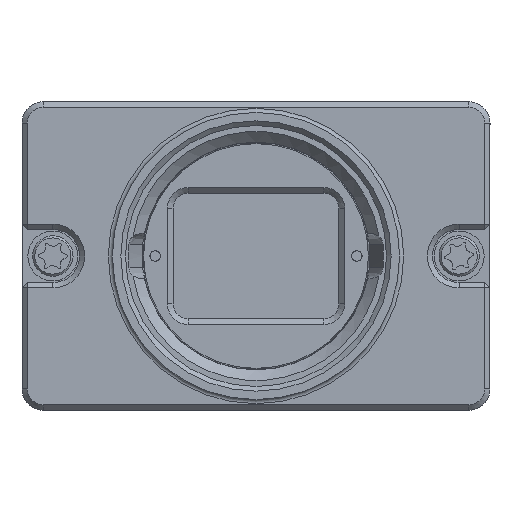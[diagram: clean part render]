
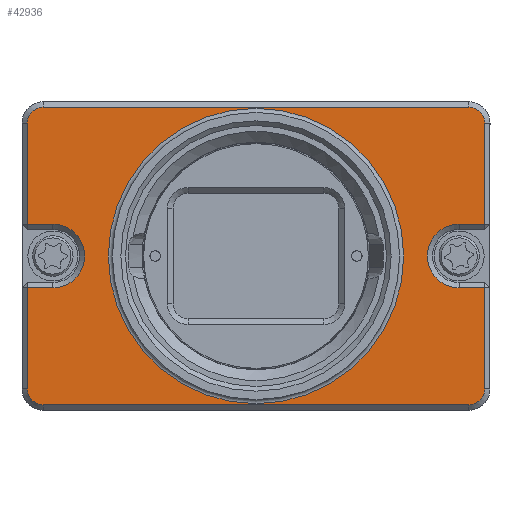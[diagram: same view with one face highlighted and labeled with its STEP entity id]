
A CAD part, front view. The second image highlights one B-rep face of the part: STEP entity #42936.
In plain terms, the highlighted planar face has unit normal (0, -1, 0).
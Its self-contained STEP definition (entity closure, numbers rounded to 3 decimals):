
#577=FACE_BOUND('',#5378,.T.);
#1563=PLANE('',#45368);
#3062=FACE_OUTER_BOUND('',#5377,.T.);
#5377=EDGE_LOOP('',(#28427,#28428,#28429,#28430,#28431,#28432,#28433,#28434,
#28435,#28436,#28437,#28438,#28439,#28440,#28441,#28442));
#5378=EDGE_LOOP('',(#28443,#28444));
#7934=LINE('',#59817,#12380);
#7935=LINE('',#59819,#12381);
#7936=LINE('',#59823,#12382);
#7937=LINE('',#59825,#12383);
#7938=LINE('',#59829,#12384);
#7939=LINE('',#59833,#12385);
#7940=LINE('',#59835,#12386);
#7941=LINE('',#59839,#12387);
#7942=LINE('',#59841,#12388);
#7943=LINE('',#59845,#12389);
#12380=VECTOR('',#48684,10.);
#12381=VECTOR('',#48685,10.);
#12382=VECTOR('',#48688,10.);
#12383=VECTOR('',#48689,10.);
#12384=VECTOR('',#48692,10.);
#12385=VECTOR('',#48695,10.);
#12386=VECTOR('',#48696,10.);
#12387=VECTOR('',#48699,10.);
#12388=VECTOR('',#48700,10.);
#12389=VECTOR('',#48703,10.);
#16824=CIRCLE('',#45365,13.88);
#16825=CIRCLE('',#45366,13.88);
#16827=CIRCLE('',#45369,3.);
#16828=CIRCLE('',#45370,1.5);
#16829=CIRCLE('',#45371,1.5);
#16830=CIRCLE('',#45372,3.);
#16831=CIRCLE('',#45373,1.5);
#16832=CIRCLE('',#45374,1.5);
#17861=VERTEX_POINT('',#59808);
#17862=VERTEX_POINT('',#59810);
#17863=VERTEX_POINT('',#59815);
#17864=VERTEX_POINT('',#59816);
#17865=VERTEX_POINT('',#59818);
#17866=VERTEX_POINT('',#59820);
#17867=VERTEX_POINT('',#59822);
#17868=VERTEX_POINT('',#59824);
#17869=VERTEX_POINT('',#59826);
#17870=VERTEX_POINT('',#59828);
#17871=VERTEX_POINT('',#59830);
#17872=VERTEX_POINT('',#59832);
#17873=VERTEX_POINT('',#59834);
#17874=VERTEX_POINT('',#59836);
#17875=VERTEX_POINT('',#59838);
#17876=VERTEX_POINT('',#59840);
#17877=VERTEX_POINT('',#59842);
#17878=VERTEX_POINT('',#59844);
#21989=EDGE_CURVE('',#17861,#17862,#16824,.T.);
#21990=EDGE_CURVE('',#17862,#17861,#16825,.T.);
#21992=EDGE_CURVE('',#17863,#17864,#7934,.T.);
#21993=EDGE_CURVE('',#17865,#17863,#7935,.T.);
#21994=EDGE_CURVE('',#17866,#17865,#16827,.T.);
#21995=EDGE_CURVE('',#17867,#17866,#7936,.T.);
#21996=EDGE_CURVE('',#17868,#17867,#7937,.T.);
#21997=EDGE_CURVE('',#17869,#17868,#16828,.T.);
#21998=EDGE_CURVE('',#17870,#17869,#7938,.T.);
#21999=EDGE_CURVE('',#17871,#17870,#16829,.T.);
#22000=EDGE_CURVE('',#17872,#17871,#7939,.T.);
#22001=EDGE_CURVE('',#17873,#17872,#7940,.T.);
#22002=EDGE_CURVE('',#17874,#17873,#16830,.T.);
#22003=EDGE_CURVE('',#17875,#17874,#7941,.T.);
#22004=EDGE_CURVE('',#17876,#17875,#7942,.T.);
#22005=EDGE_CURVE('',#17877,#17876,#16831,.T.);
#22006=EDGE_CURVE('',#17878,#17877,#7943,.T.);
#22007=EDGE_CURVE('',#17864,#17878,#16832,.T.);
#28427=ORIENTED_EDGE('',*,*,#21992,.F.);
#28428=ORIENTED_EDGE('',*,*,#21993,.F.);
#28429=ORIENTED_EDGE('',*,*,#21994,.F.);
#28430=ORIENTED_EDGE('',*,*,#21995,.F.);
#28431=ORIENTED_EDGE('',*,*,#21996,.F.);
#28432=ORIENTED_EDGE('',*,*,#21997,.F.);
#28433=ORIENTED_EDGE('',*,*,#21998,.F.);
#28434=ORIENTED_EDGE('',*,*,#21999,.F.);
#28435=ORIENTED_EDGE('',*,*,#22000,.F.);
#28436=ORIENTED_EDGE('',*,*,#22001,.F.);
#28437=ORIENTED_EDGE('',*,*,#22002,.F.);
#28438=ORIENTED_EDGE('',*,*,#22003,.F.);
#28439=ORIENTED_EDGE('',*,*,#22004,.F.);
#28440=ORIENTED_EDGE('',*,*,#22005,.F.);
#28441=ORIENTED_EDGE('',*,*,#22006,.F.);
#28442=ORIENTED_EDGE('',*,*,#22007,.F.);
#28443=ORIENTED_EDGE('',*,*,#21990,.F.);
#28444=ORIENTED_EDGE('',*,*,#21989,.F.);
#42936=ADVANCED_FACE('',(#3062,#577),#1563,.T.);
#45365=AXIS2_PLACEMENT_3D('',#59811,#48676,#48677);
#45366=AXIS2_PLACEMENT_3D('',#59812,#48678,#48679);
#45368=AXIS2_PLACEMENT_3D('',#59814,#48682,#48683);
#45369=AXIS2_PLACEMENT_3D('',#59821,#48686,#48687);
#45370=AXIS2_PLACEMENT_3D('',#59827,#48690,#48691);
#45371=AXIS2_PLACEMENT_3D('',#59831,#48693,#48694);
#45372=AXIS2_PLACEMENT_3D('',#59837,#48697,#48698);
#45373=AXIS2_PLACEMENT_3D('',#59843,#48701,#48702);
#45374=AXIS2_PLACEMENT_3D('',#59846,#48704,#48705);
#48676=DIRECTION('center_axis',(0.,-1.,0.));
#48677=DIRECTION('ref_axis',(1.,0.,0.));
#48678=DIRECTION('center_axis',(0.,-1.,0.));
#48679=DIRECTION('ref_axis',(1.,0.,0.));
#48682=DIRECTION('center_axis',(0.,-1.,0.));
#48683=DIRECTION('ref_axis',(-1.,0.,0.));
#48684=DIRECTION('',(0.,0.,1.));
#48685=DIRECTION('',(-1.,0.,0.));
#48686=DIRECTION('center_axis',(0.,-1.,0.));
#48687=DIRECTION('ref_axis',(1.,0.,0.));
#48688=DIRECTION('',(1.,0.,0.));
#48689=DIRECTION('',(0.,0.,1.));
#48690=DIRECTION('center_axis',(0.,1.,0.));
#48691=DIRECTION('ref_axis',(-0.707,0.,-0.707));
#48692=DIRECTION('',(-1.,0.,0.));
#48693=DIRECTION('center_axis',(0.,1.,0.));
#48694=DIRECTION('ref_axis',(0.707,0.,-0.707));
#48695=DIRECTION('',(0.,0.,-1.));
#48696=DIRECTION('',(1.,0.,0.));
#48697=DIRECTION('center_axis',(0.,-1.,0.));
#48698=DIRECTION('ref_axis',(-1.,0.,0.));
#48699=DIRECTION('',(-1.,0.,0.));
#48700=DIRECTION('',(0.,0.,-1.));
#48701=DIRECTION('center_axis',(0.,1.,0.));
#48702=DIRECTION('ref_axis',(0.707,0.,0.707));
#48703=DIRECTION('',(1.,0.,0.));
#48704=DIRECTION('center_axis',(0.,1.,0.));
#48705=DIRECTION('ref_axis',(-0.707,0.,0.707));
#59808=CARTESIAN_POINT('',(0.,-9.749,13.88));
#59810=CARTESIAN_POINT('',(-13.88,-9.749,0.));
#59811=CARTESIAN_POINT('Origin',(0.,-9.749,
0.));
#59812=CARTESIAN_POINT('Origin',(0.,-9.749,
0.));
#59814=CARTESIAN_POINT('Origin',(19.1,-9.749,0.));
#59815=CARTESIAN_POINT('',(-21.5,-9.749,3.));
#59816=CARTESIAN_POINT('',(-21.5,-9.749,12.5));
#59817=CARTESIAN_POINT('',(-21.5,-9.749,-7.25));
#59818=CARTESIAN_POINT('',(-19.1,-9.749,3.));
#59819=CARTESIAN_POINT('',(-1.45,-9.749,3.));
#59820=CARTESIAN_POINT('',(-19.1,-9.749,-3.));
#59821=CARTESIAN_POINT('Origin',(-19.1,-9.749,0.));
#59822=CARTESIAN_POINT('',(-21.5,-9.749,-3.));
#59823=CARTESIAN_POINT('',(0.,-9.749,-3.));
#59824=CARTESIAN_POINT('',(-21.5,-9.749,-12.5));
#59825=CARTESIAN_POINT('',(-21.5,-9.749,-7.25));
#59826=CARTESIAN_POINT('',(-20.,-9.749,-14.));
#59827=CARTESIAN_POINT('Origin',(-20.,-9.749,-12.5));
#59828=CARTESIAN_POINT('',(20.,-9.749,-14.));
#59829=CARTESIAN_POINT('',(20.55,-9.749,-14.));
#59830=CARTESIAN_POINT('',(21.5,-9.749,-12.5));
#59831=CARTESIAN_POINT('Origin',(20.,-9.749,-12.5));
#59832=CARTESIAN_POINT('',(21.5,-9.749,-3.));
#59833=CARTESIAN_POINT('',(21.5,-9.749,7.25));
#59834=CARTESIAN_POINT('',(19.1,-9.749,-3.));
#59835=CARTESIAN_POINT('',(20.55,-9.749,-3.));
#59836=CARTESIAN_POINT('',(19.1,-9.749,3.));
#59837=CARTESIAN_POINT('Origin',(19.1,-9.749,0.));
#59838=CARTESIAN_POINT('',(21.5,-9.749,3.));
#59839=CARTESIAN_POINT('',(19.1,-9.749,3.));
#59840=CARTESIAN_POINT('',(21.5,-9.749,12.5));
#59841=CARTESIAN_POINT('',(21.5,-9.749,7.25));
#59842=CARTESIAN_POINT('',(20.,-9.749,14.));
#59843=CARTESIAN_POINT('Origin',(20.,-9.749,12.5));
#59844=CARTESIAN_POINT('',(-20.,-9.749,14.));
#59845=CARTESIAN_POINT('',(-1.45,-9.749,14.));
#59846=CARTESIAN_POINT('Origin',(-20.,-9.749,12.5));
